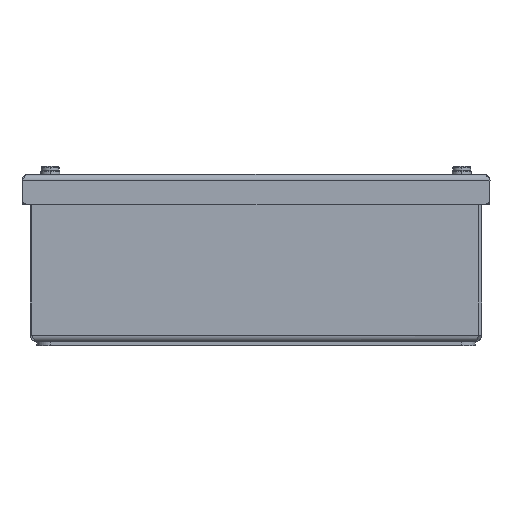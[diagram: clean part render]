
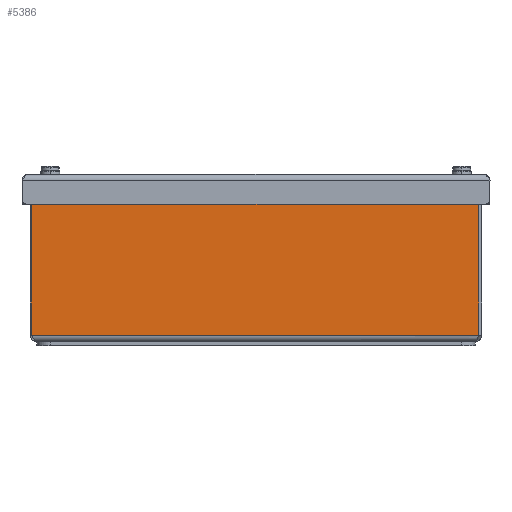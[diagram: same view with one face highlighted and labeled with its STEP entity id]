
A CAD part, left-side view. The second image highlights one B-rep face of the part: STEP entity #5386.
In plain terms, the highlighted planar face has unit normal (-1, 0, 0).
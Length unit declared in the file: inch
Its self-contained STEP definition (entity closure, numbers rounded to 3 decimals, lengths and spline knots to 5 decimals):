
#266=DIRECTION('',(0.,-1.,0.));
#267=VECTOR('',#266,8.418);
#268=CARTESIAN_POINT('',(0.,8.478,0.12));
#269=LINE('',#268,#267);
#1654=DIRECTION('',(0.,-1.,0.));
#1655=VECTOR('',#1654,7.72175);
#1656=CARTESIAN_POINT('',(0.,8.478,2.888));
#1657=LINE('',#1656,#1655);
#1741=DIRECTION('',(0.,0.,1.));
#1742=VECTOR('',#1741,0.052);
#1743=CARTESIAN_POINT('',(0.,0.75625,2.888));
#1744=LINE('',#1743,#1742);
#1748=DIRECTION('',(0.,1.,0.));
#1749=VECTOR('',#1748,0.64425);
#1750=CARTESIAN_POINT('',(0.,0.112,2.94));
#1751=LINE('',#1750,#1749);
#1755=CARTESIAN_POINT('',(0.,0.112,2.888));
#1756=DIRECTION('',(-1.,0.,0.));
#1757=DIRECTION('',(0.,-1.,0.));
#1758=AXIS2_PLACEMENT_3D('',#1755,#1756,#1757);
#1763=DIRECTION('',(0.,0.,1.));
#1764=VECTOR('',#1763,2.768);
#1765=CARTESIAN_POINT('',(0.,8.478,0.12));
#1766=LINE('',#1765,#1764);
#1812=DIRECTION('',(0.,0.,1.));
#1813=VECTOR('',#1812,2.768);
#1814=CARTESIAN_POINT('',(0.,0.06,0.12));
#1815=LINE('',#1814,#1813);
#3547=CARTESIAN_POINT('',(0.,0.75625,2.888));
#3548=CARTESIAN_POINT('',(0.,0.75625,2.94));
#3549=VERTEX_POINT('',#3547);
#3550=VERTEX_POINT('',#3548);
#3595=CARTESIAN_POINT('',(0.,0.06,2.888));
#3596=CARTESIAN_POINT('',(0.,0.112,2.94));
#3597=VERTEX_POINT('',#3595);
#3598=VERTEX_POINT('',#3596);
#3603=CARTESIAN_POINT('',(0.,0.06,0.12));
#3604=VERTEX_POINT('',#3603);
#3607=CARTESIAN_POINT('',(0.,8.478,0.12));
#3608=CARTESIAN_POINT('',(0.,8.478,2.888));
#3609=VERTEX_POINT('',#3607);
#3610=VERTEX_POINT('',#3608);
#5367=CARTESIAN_POINT('',(0.,8.5,0.));
#5368=DIRECTION('',(-1.,0.,0.));
#5369=DIRECTION('',(0.,-1.,0.));
#5370=AXIS2_PLACEMENT_3D('',#5367,#5368,#5369);
#5371=PLANE('',#5370);
#5372=ORIENTED_EDGE('',*,*,#5356,.T.);
#5374=ORIENTED_EDGE('',*,*,#5373,.T.);
#5376=ORIENTED_EDGE('',*,*,#5375,.F.);
#5378=ORIENTED_EDGE('',*,*,#5377,.F.);
#5380=ORIENTED_EDGE('',*,*,#5379,.F.);
#5381=ORIENTED_EDGE('',*,*,#4136,.F.);
#5383=ORIENTED_EDGE('',*,*,#5382,.T.);
#5384=EDGE_LOOP('',(#5372,#5374,#5376,#5378,#5380,#5381,#5383));
#5385=FACE_OUTER_BOUND('',#5384,.F.);
#1759=CIRCLE('',#1758,0.052);
#4136=EDGE_CURVE('',#3609,#3604,#269,.T.);
#5356=EDGE_CURVE('',#3610,#3549,#1657,.T.);
#5373=EDGE_CURVE('',#3549,#3550,#1744,.T.);
#5375=EDGE_CURVE('',#3598,#3550,#1751,.T.);
#5377=EDGE_CURVE('',#3597,#3598,#1759,.T.);
#5379=EDGE_CURVE('',#3604,#3597,#1815,.T.);
#5382=EDGE_CURVE('',#3609,#3610,#1766,.T.);
#5386=ADVANCED_FACE('',(#5385),#5371,.T.);
